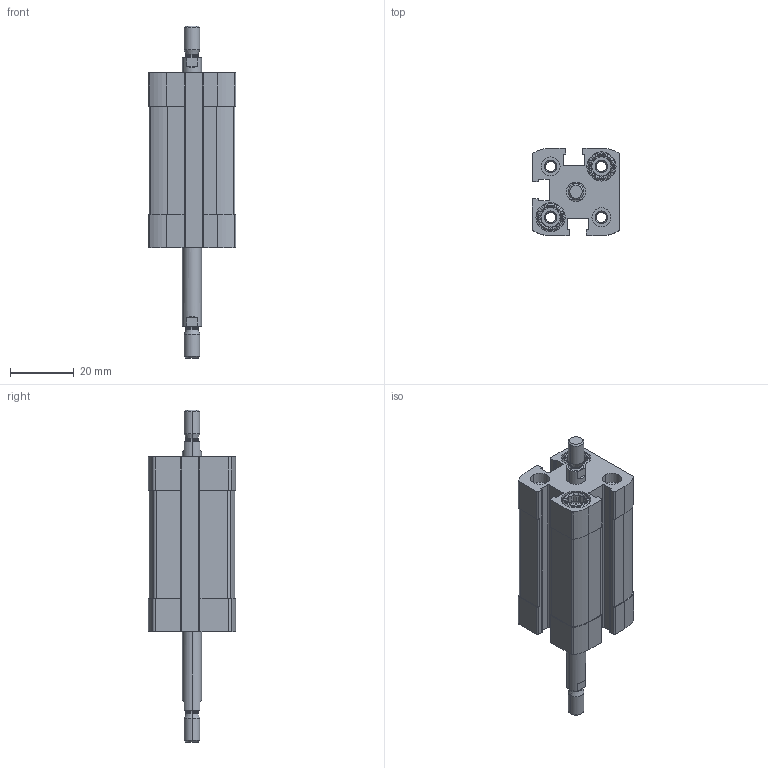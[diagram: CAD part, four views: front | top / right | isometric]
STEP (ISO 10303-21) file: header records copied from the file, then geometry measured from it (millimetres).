
FILE_DESCRIPTION (( 'STEP AP203' ), '1' );
FILE_NAME ('CCN12-20-P.STEP', '2020-06-22T18:34:28', ( '' ), ( '' ), 'SwSTEP 2.0', 'SolidWorks 2019', '' );
FILE_SCHEMA (( 'CONFIG_CONTROL_DESIGN' ));
Length unit declared in the file: millimetre
Products named in the file (1): CCN12-20-P
Bounding box: 27.5 x 27.5 x 104.5 mm (x, y, z)
Volume: 30616.2 mm3; surface area: 16783.3 mm2
Topology: 2 solids, 2 shells, 384 faces, 976 edges, 632 vertices
Faces by surface type: plane 192, cylinder 140, cone 44, torus 8
Entity records: 11783 total; most frequent: CARTESIAN_POINT 2293, DIRECTION 1986, ORIENTED_EDGE 1952, EDGE_CURVE 976, AXIS2_PLACEMENT_3D 725, VERTEX_POINT 632, LINE 536, VECTOR 536
